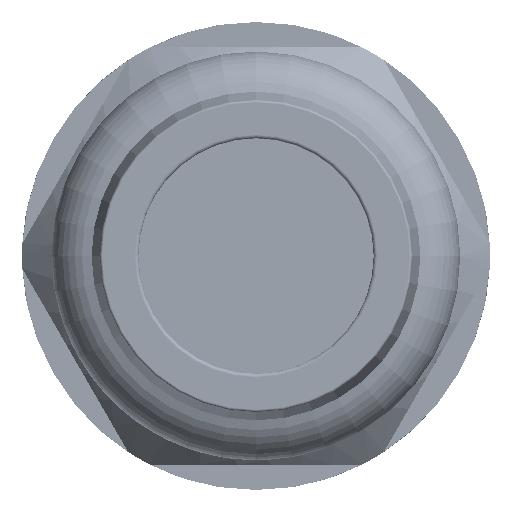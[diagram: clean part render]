
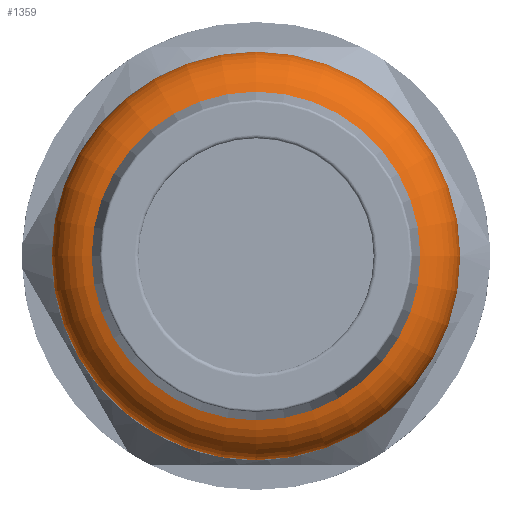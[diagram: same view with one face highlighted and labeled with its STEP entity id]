
A CAD part, left-side view. The second image highlights one B-rep face of the part: STEP entity #1359.
In plain terms, the highlighted toroidal (fillet/blend) face has major radius 12.15 mm and minor radius 4 mm.
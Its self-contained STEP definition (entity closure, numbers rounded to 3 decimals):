
#170=TOROIDAL_SURFACE('',#10336,12.15,4.);
#1021=CIRCLE('',#10333,16.15);
#1022=CIRCLE('',#10335,12.994);
#1359=ADVANCED_FACE('',(#3519,#3520),#170,.T.);
#3519=FACE_BOUND('',#3883,.T.);
#3520=FACE_BOUND('',#3884,.T.);
#3883=EDGE_LOOP('',(#5672));
#3884=EDGE_LOOP('',(#5673));
#5672=ORIENTED_EDGE('',*,*,#8791,.F.);
#5673=ORIENTED_EDGE('',*,*,#8790,.T.);
#7618=VERTEX_POINT('',#23570);
#7619=VERTEX_POINT('',#23573);
#8790=EDGE_CURVE('',#7618,#7618,#1021,.T.);
#8791=EDGE_CURVE('',#7619,#7619,#1022,.T.);
#10333=AXIS2_PLACEMENT_3D('',#23569,#11888,#11889);
#10335=AXIS2_PLACEMENT_3D('',#23572,#11892,#11893);
#10336=AXIS2_PLACEMENT_3D('',#23574,#11894,#11895);
#11888=DIRECTION('',(-1.,0.,0.));
#11889=DIRECTION('',(0.,-1.,0.));
#11892=DIRECTION('',(-1.,0.,0.));
#11893=DIRECTION('',(0.,-1.,0.));
#11894=DIRECTION('',(-1.,0.,0.));
#11895=DIRECTION('',(0.,-1.,0.));
#23569=CARTESIAN_POINT('',(-17.425,24.075,0.));
#23570=CARTESIAN_POINT('',(-17.425,7.925,0.));
#23572=CARTESIAN_POINT('',(-21.335,24.075,0.));
#23573=CARTESIAN_POINT('',(-21.335,11.081,0.));
#23574=CARTESIAN_POINT('',(-17.425,24.075,0.));
